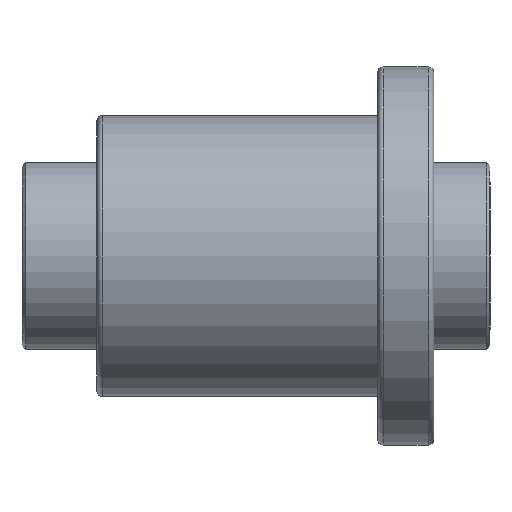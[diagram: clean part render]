
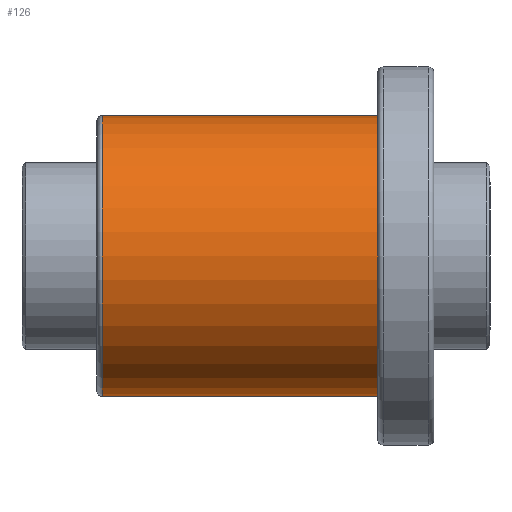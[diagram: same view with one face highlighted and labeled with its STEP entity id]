
A CAD part, front view. The second image highlights one B-rep face of the part: STEP entity #126.
In plain terms, the highlighted cylindrical face has radius 75 mm (diameter 150 mm), a full revolution.
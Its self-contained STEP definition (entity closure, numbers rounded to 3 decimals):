
#126=ADVANCED_FACE('',(#191,#192),#157,.T.);
#157=CYLINDRICAL_SURFACE('',#561,75.);
#191=FACE_BOUND('',#271,.T.);
#192=FACE_BOUND('',#272,.T.);
#271=EDGE_LOOP('',(#353));
#272=EDGE_LOOP('',(#354));
#353=ORIENTED_EDGE('',*,*,#470,.F.);
#354=ORIENTED_EDGE('',*,*,#472,.T.);
#429=VERTEX_POINT('',#798);
#431=VERTEX_POINT('',#803);
#470=EDGE_CURVE('',#429,#429,#511,.T.);
#472=EDGE_CURVE('',#431,#431,#513,.T.);
#511=CIRCLE('',#557,75.);
#513=CIRCLE('',#560,75.);
#557=AXIS2_PLACEMENT_3D('',#797,#650,#651);
#560=AXIS2_PLACEMENT_3D('',#802,#656,#657);
#561=AXIS2_PLACEMENT_3D('',#804,#658,#659);
#650=DIRECTION('',(1.,0.,0.));
#651=DIRECTION('',(0.,1.,0.));
#656=DIRECTION('',(1.,0.,0.));
#657=DIRECTION('',(0.,1.,0.));
#658=DIRECTION('',(1.,0.,0.));
#659=DIRECTION('',(0.,1.,0.));
#797=CARTESIAN_POINT('',(-60.,0.,0.));
#798=CARTESIAN_POINT('',(-60.,75.,0.));
#802=CARTESIAN_POINT('',(-207.,0.,0.));
#803=CARTESIAN_POINT('',(-207.,75.,0.));
#804=CARTESIAN_POINT('',(-240.,0.,0.));
